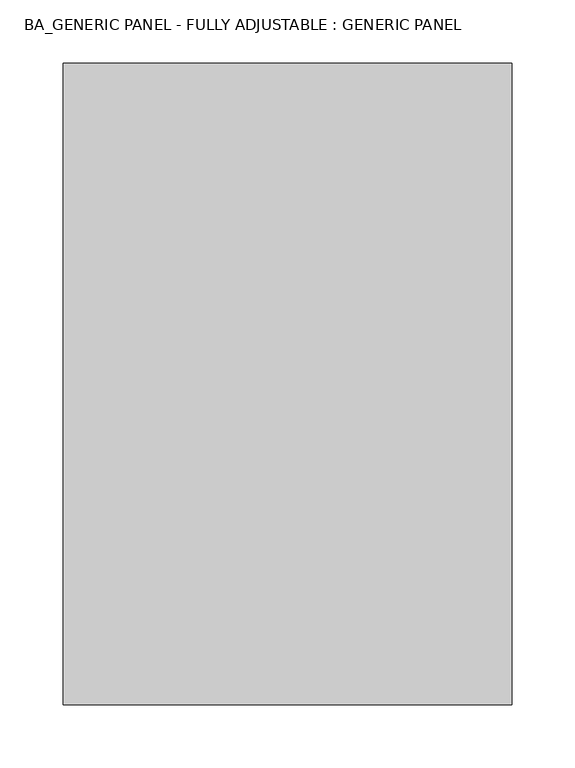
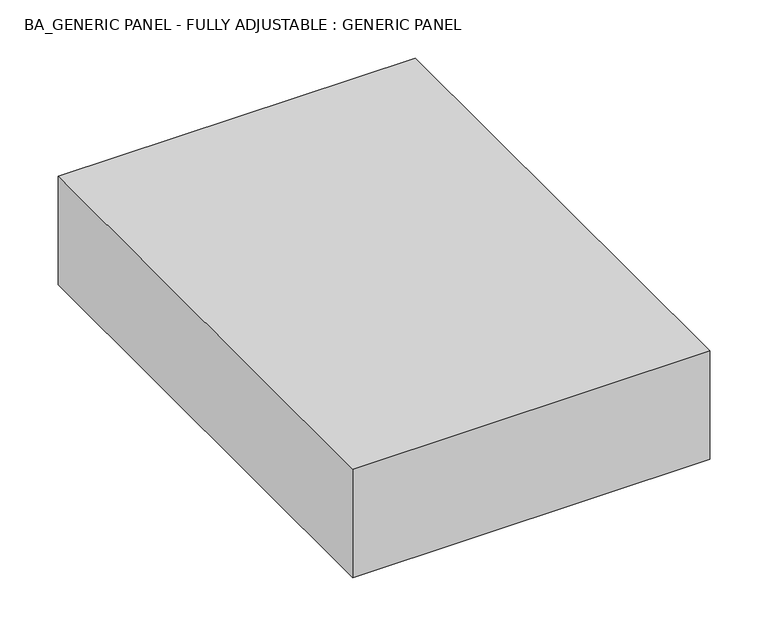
"""IFC4 building model written with IfcOpenShell, lengths in millimetres: proxy geometry, BA_GENERIC PANEL - FULLY ADJUSTABLE : GENERIC PANEL."""

from ifc_helpers import new_model, si_unit, origin, origin_with_axes, place, context, project, spatial, polyline, outline, extrude, source, transform, mapped, element, save


def ba_generic_panel_fully_adjustable_generic_panel_57a4716d(model_context):
    return source(origin(), model_context, "Body", "SweptSolid", [
        extrude(outline(polyline([(273.0594706, 17.8943297), (273.0594706, -490.1056703), (-82.5405294, -490.1056703), (-82.5405294, 17.8943297), (273.0594706, 17.8943297)])), origin_with_axes(), (0.0, 0.0, 1.0), 114.3),
    ])


if __name__ == "__main__":
    model = new_model("IFC4")
    model_context = context("Model", 3, world=origin())
    ifc_project = project(units=[si_unit("LENGTHUNIT", "METRE", prefix="MILLI")], contexts=[model_context])
    site = spatial("IfcSite", under=ifc_project)
    building = spatial("IfcBuilding", under=site)
    placement = place(None, origin())
    ba_generic_panel_fully_adjustable_generic_panel_shape = ba_generic_panel_fully_adjustable_generic_panel_57a4716d(model_context)
    element("IfcBuildingElementProxy", 1, Name="BA_GENERIC PANEL - FULLY ADJUSTABLE : GENERIC PANEL", ObjectType="BA_GENERIC PANEL - FULLY ADJUSTABLE : GENERIC PANEL", at=placement, inside=building, context=model_context, shape_type="MappedRepresentation", body=[
        mapped(ba_generic_panel_fully_adjustable_generic_panel_shape, transform((0.0, 0.0, 0.0), x_axis=(1.0, 0.0, 0.0), y_axis=(0.0, 1.0, 0.0), z_axis=(0.0, 0.0, 1.0))),
    ])
    save(model, "model.ifc")
